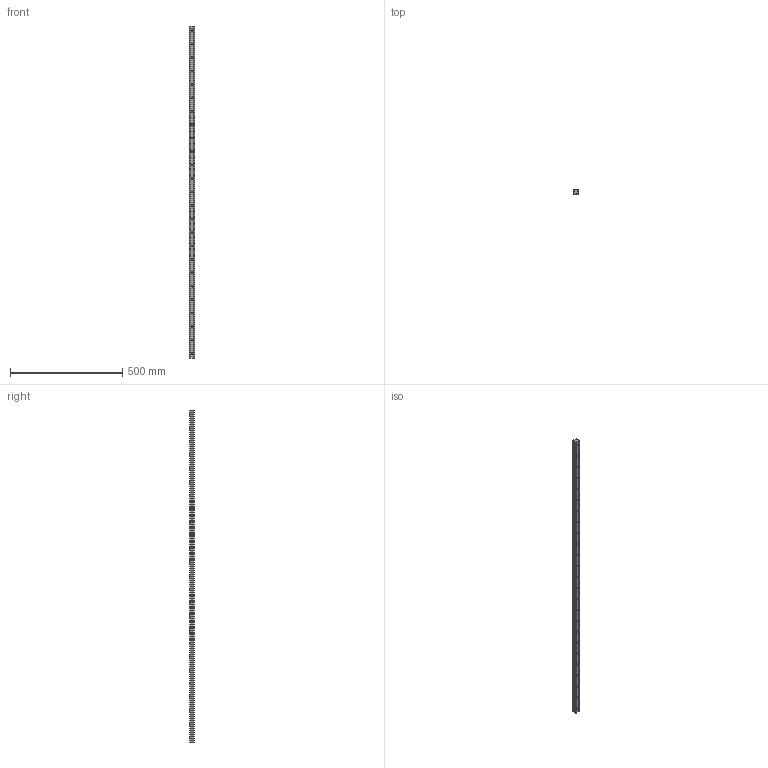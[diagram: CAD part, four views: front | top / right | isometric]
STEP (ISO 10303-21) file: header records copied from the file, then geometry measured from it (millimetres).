
FILE_DESCRIPTION (( 'STEP AP203' ), '1' );
FILE_NAME ('L1016.BL25-1480.step', '2019-06-12T12:07:53', ( '' ), ( '' ), 'SwSTEP 2.0', 'SolidWorks 2017', '' );
FILE_SCHEMA (( 'CONFIG_CONTROL_DESIGN' ));
Length unit declared in the file: millimetre
Products named in the file (1): L1016.BL25-1480
Bounding box: 23 x 19.2 x 1480 mm (x, y, z)
Volume: 545200 mm3; surface area: 140492.5 mm2
Topology: 1 solids, 1 shells, 151 faces, 372 edges, 248 vertices
Faces by surface type: cylinder 104, plane 47
Entity records: 4751 total; most frequent: DIRECTION 884, CARTESIAN_POINT 772, ORIENTED_EDGE 744, EDGE_CURVE 372, AXIS2_PLACEMENT_3D 360, VERTEX_POINT 248, EDGE_LOOP 226, CIRCLE 208
